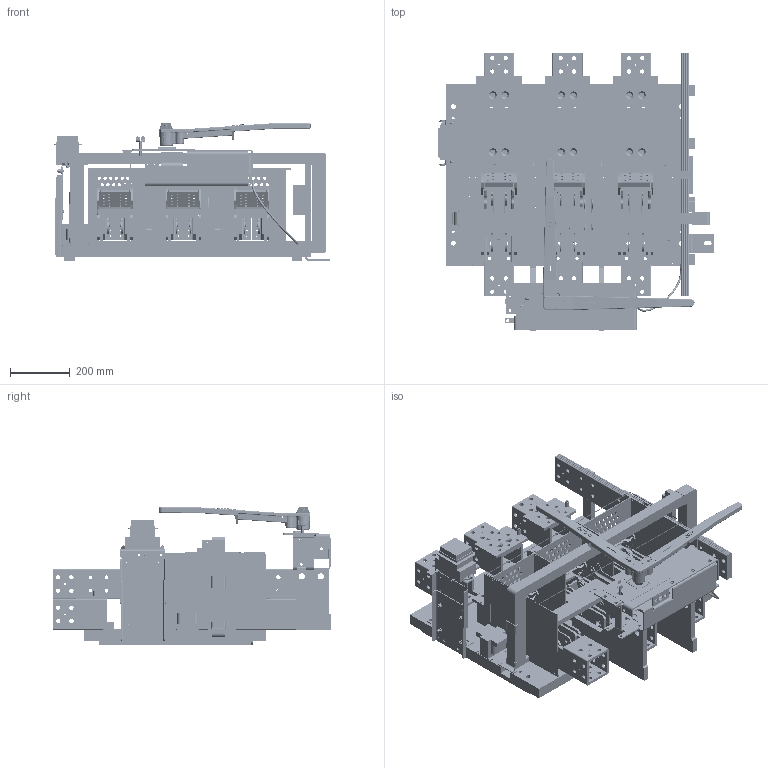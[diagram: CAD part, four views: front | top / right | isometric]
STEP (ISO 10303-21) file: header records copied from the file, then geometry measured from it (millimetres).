
FILE_DESCRIPTION(/* description */ (''),/* implementation_level */ '2;1');
FILE_NAME(/* name */ 'H:\switches\3d-templates\catalog-switches-iges-files\CATALOG-SLB3413G6.stp',/* time_stamp */ '2022-03-18T15:33:21-05:00',/* author */ ('MKingston'),/* organization */ (''),/* preprocessor_version */ 'ST-DEVELOPER v18.1',/* originating_system */ 'Autodesk Inventor 2022',/* authorisation */ '');
FILE_SCHEMA (('AUTOMOTIVE_DESIGN { 1 0 10303 214 3 1 1 }'));
Products named in the file (65): CATALOG-SLB3413G6; 727-slb-g6; 701-b; 702-CN; 703-b; 704; 708-arc-chute-assy; 50-ql; 50-qr; 709; CATALOG-4000-blade-assy; 705-b; 705-a; 705-c; 67-j; 69-gc3; 69-gd3; 67-fc3; 237; 672-a; 800-bck2; 800-fck-1; 246-f; 221-kpa; 452; 481-a; bf-gfr-1-mounting-assembly; 277-L1B; 277-l2; 277-l3; 277-l4; gfr-1; Bolted Connection; ANSI B18.6.3 - 10 - 32 x 3/4 SR HMS; ANSI B18.22.1 - No. 10 - Type A; ASME B18.21.1 - No. 10. Carbon Steel, ETLWTB(1); ANSI B18.2.2 - 10 - 32, HMSNI; Bolted Connection_1; ANSI B18.5 - 1/4-20 UNC - 0.75, RHBI; ASTM F436 - 1/4, CW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
Assembly tree (127 placements, depth 4):
  CATALOG-SLB3413G6
    727-slb-g6
    701-b  x3
    702-CN  x3
    703-b  x3
    704  x6
    708-arc-chute-assy  x3
      50-ql
      50-qr
      709
    CATALOG-4000-blade-assy  x3
      705-c
      705-b
      67-j
      705-a
      67-fc3
      69-gc3
      69-gd3
    237
    672-a  x2
    800-bck2
    800-fck-1
    246-f  x2
    221-kpa
    452
    481-a
    bf-gfr-1-mounting-assembly
      277-L1B
      277-l2
      277-l3
      277-l4
      gfr-1
      Bolted Connection
        ANSI B18.22.1 - No. 10 - Type A  x4
        ASME B18.21.1 - No. 10. Carbon Steel, ETLWTB(1)  x4
        ANSI B18.6.3 - 10 - 32 x 3/4 SR HMS  x2
        ANSI B18.2.2 - 10 - 32, HMSNI  x2
      Bolted Connection_1
        ANSI B18.5 - 1/4-20 UNC - 0.75, RHBI  x6
        ASTM F436 - 1/4, CW  x6
        ASME B18.21.1 - 1/4. Carbon Steel, HITLWTB(1)  x6
        ANSI B18.2.2 - 1/4 - 20, HNI  x6
    sl-slb-gfi-ring-assembly
      GFS10X30
      277-ma
    transformer
    4000-SLB-NEUTRAL
      676-x  x8
      677-g  x2
      675-h  x3
      675-ja
      678-s
    230-a
    257-bb  x2
    257-ba  x2
    257-ca
    257-da
    672-E
    wire-connector  x2
    slb3413g6.Harness1
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Bounding box: 926.24 x 927.1 x 459.94 mm (x, y, z)
Volume: 40215302.9 mm3; surface area: 7096627 mm2
Topology: 151 solids, 153 shells, 5320 faces, 14214 edges, 9259 vertices
Faces by surface type: plane 2475, cylinder 2402, cone 193, bspline 176, torus 66, sphere 8
Full cylindrical faces by diameter (mm): 1.702 x8, 3.302 x14, 3.556 x9, 3.569 x2, 3.581 x2, 3.658 x8, 3.962 x11, 4.089 x4, 4.343 x84, 4.366 x2, 4.496 x36, 4.572 x12, 4.653 x4, 4.762 x4, 4.775 x8, 4.826 x2, 4.902 x16, 4.928 x16, 4.953 x4, 4.978 x36, 5.08 x2, 5.462 x4, 5.537 x5, 5.556 x3, 5.563 x10, 5.791 x12, 6.35 x20, 6.528 x57, 7.137 x8, 7.144 x14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
Entity records: 99689 total; most frequent: CARTESIAN_POINT 26068, DIRECTION 14640, ORIENTED_EDGE 14494, EDGE_CURVE 7258, AXIS2_PLACEMENT_3D 5160, VERTEX_POINT 4694, LINE 4320, VECTOR 4320
